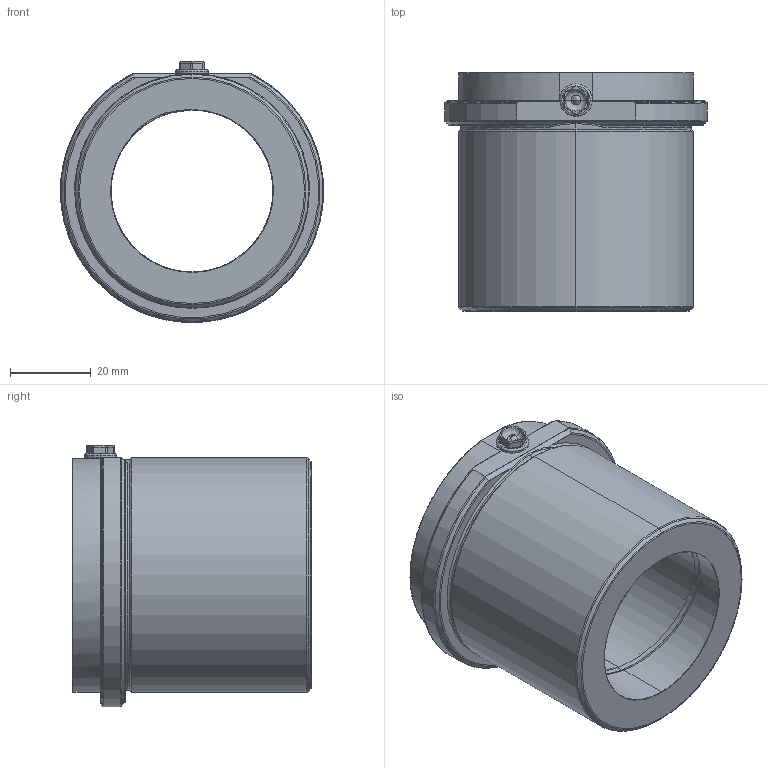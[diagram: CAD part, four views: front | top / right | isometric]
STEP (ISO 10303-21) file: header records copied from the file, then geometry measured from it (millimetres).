
FILE_DESCRIPTION( ( 'STEP AP203' ), '1' );
FILE_NAME( 'D:/Delta 3 D/D24/D24 - 40x46K.step', '2002-12-31T22:43:49', ( ' ' ), ( ' ' ), 'XStep 1.0', ' ', ' ' );
FILE_SCHEMA( ( 'CONFIG_CONTROL_DESIGN' ) );
Length unit declared in the file: metre
Products named in the file (1): 1
Bounding box: 64.95 x 59 x 64.5 mm (x, y, z)
Volume: 84903.7 mm3; surface area: 22720.6 mm2
Topology: 1 solids, 1 shells, 131 faces, 322 edges, 185 vertices
Faces by surface type: bspline 83, revolution 48
Entity records: 6190 total; most frequent: CARTESIAN_POINT 3639, ORIENTED_EDGE 628, DIRECTION 331, EDGE_CURVE 314, VERTEX_POINT 185, B_SPLINE_CURVE_WITH_KNOTS 142, EDGE_LOOP 135, ADVANCED_FACE 131
